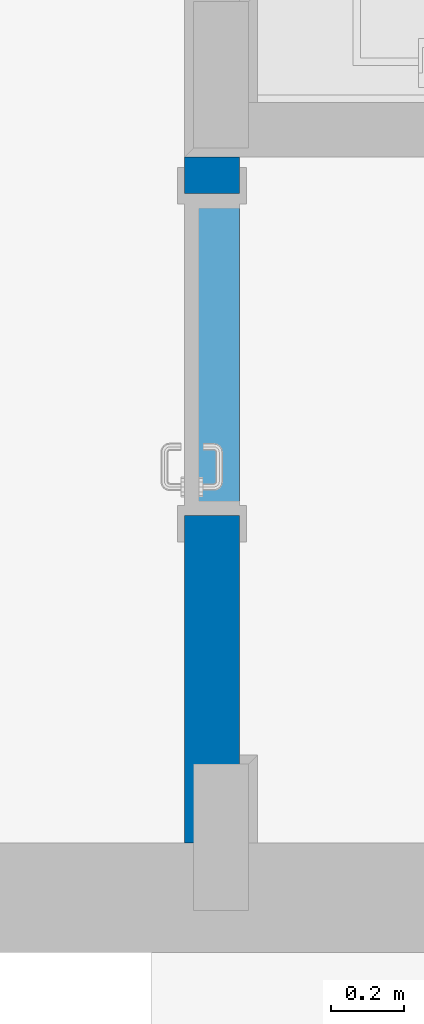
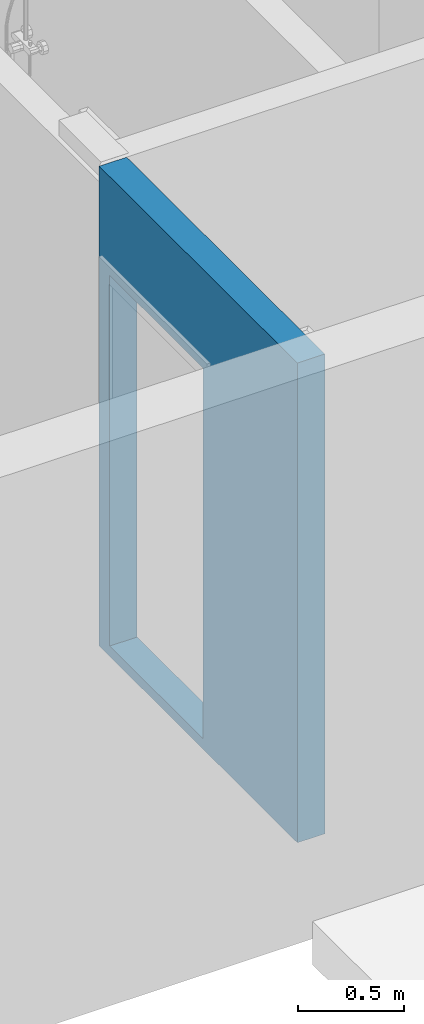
# One storey, part 3 of 24: 1 wall, 1 opening.
"""IFC2X3 building model written with IfcOpenShell, lengths in millimetres."""

from ifc_helpers import new_model, entity, si_unit, converted_unit, money_unit, direction, frame, origin_with_axes, origin_2d_with_axis, place, context, subcontext, project, spatial, polyline, rectangle, outline, extrude, material, layer, layer_set, layer_usage, type_object, element, save


model = new_model("IFC2X3")

# Units and contexts
model_context = context("Model", 3, precision=1e-05, world=origin_with_axes(), true_north=direction((0.0, 1.0)))
body_context = subcontext(model_context, "Body", "Model", "MODEL_VIEW")
ifc_project = project(units=[si_unit("LENGTHUNIT", "METRE", prefix="MILLI"), si_unit("AREAUNIT", "SQUARE_METRE"), si_unit("VOLUMEUNIT", "CUBIC_METRE"), converted_unit("PLANEANGLEUNIT", "DEGREE", entity("IfcPlaneAngleMeasure", 0.0174532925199), si_unit("PLANEANGLEUNIT", "RADIAN"), dimensions=[0, 0, 0, 0, 0, 0, 0]), si_unit("SOLIDANGLEUNIT", "STERADIAN"), money_unit("USD"), converted_unit("TIMEUNIT", "Year", entity("IfcTimeMeasure", 31556926.0), si_unit("TIMEUNIT", "SECOND"), dimensions=[0, 0, 0, 0, 0, 0, 0]), si_unit("MASSUNIT", "GRAM"), si_unit("THERMODYNAMICTEMPERATUREUNIT", "DEGREE_CELSIUS"), si_unit("LUMINOUSINTENSITYUNIT", "LUMEN")], contexts=[model_context])

# Site, building, storey
site_placement = place(None, origin_with_axes())
site = spatial("IfcSite", under=ifc_project, at=site_placement, Name="Grove Residential", CompositionType="ELEMENT")
building_placement = place(site_placement, origin_with_axes())
building = spatial("IfcBuilding", under=site, at=building_placement, Name="Building", CompositionType="ELEMENT")
storey_placement = place(building_placement, frame((0.0, 0.0, 3740.0), z_axis=(0.0, 0.0, 1.0), x_axis=(1.0, 0.0, 0.0)))
storey = spatial("IfcBuildingStorey", under=building, at=storey_placement, Name="First Floor", CompositionType="ELEMENT", Elevation=3740.0)

# Wall, opening
ifc_material_1 = material(Name="Gypsum Plasterboard")
ifc_layer_1 = layer(ifc_material_1, 12.5, ventilated="UNKNOWN")
ifc_layer_2 = layer(ifc_material_1, 12.5, ventilated="UNKNOWN")
ifc_material_2 = material(Name="Air Space - Frame")
ifc_layer_3 = layer(ifc_material_2, 50.0, ventilated="UNKNOWN")
ifc_material_3 = material(Name="Insulation - Mineral Soft")
ifc_layer_4 = layer(ifc_material_3, 50.0, ventilated="UNKNOWN")
ifc_layer_5 = layer(ifc_material_1, 12.5, ventilated="UNKNOWN")
ifc_layer_6 = layer(ifc_material_1, 12.5, ventilated="UNKNOWN")
ifc_layer_set = layer_set([ifc_layer_1, ifc_layer_2, ifc_layer_3, ifc_layer_4, ifc_layer_5, ifc_layer_6], Name="IWF-001")
ifc_layer_usage = layer_usage(ifc_layer_set, "AXIS2", "NEGATIVE", 150.0)
wall_type = type_object("IfcWallType", Name="IWF-001 150", PredefinedType="NOTDEFINED")
wall_placement = place(storey_placement, frame((-4910.0, 3524.99996722, -60.0), z_axis=(0.0, 0.0, 1.0), x_axis=(0.0, -1.0, 0.0)))
wall = element("IfcWallStandardCase", 1, at=wall_placement, inside=storey, type_object=wall_type, material=ifc_layer_usage, Name="SW - 001", context=body_context, shape_type="SweptSolid", body=[
    extrude(outline(polyline([(0.0, 0.0), (1875.00004413, 0.0), (1875.00004413, 150.0), (0.0, 150.0), (0.0, 0.0)])), origin_with_axes(), (0.0, 0.0, 1.0), 2770.0),
])
opening_placement = place(wall_placement, frame((540.0, 0.0, 60.0), z_axis=(0.0, 0.0, 1.0), x_axis=(1.0, 0.0, 0.0)))
element("IfcOpeningElement", 2, at=opening_placement, cuts=wall, Name="D.01", context=body_context, shape_type="SweptSolid", body=[
    extrude(rectangle(XDim=880.0, YDim=2140.0, at=origin_2d_with_axis()), frame((0.0, -150.0, 1070.0), z_axis=(0.0, 1.0, 0.0), x_axis=(-1.0, 0.0, 0.0)), (0.0, 0.0, 1.0), 450.0),
    extrude(rectangle(XDim=1024.0, YDim=2212.0, at=origin_2d_with_axis()), frame((0.0, 0.0, 1106.0), z_axis=(0.0, 1.0, 0.0), x_axis=(-1.0, 0.0, 0.0)), (0.0, 0.0, -1.0), 150.0),
    extrude(rectangle(XDim=1024.0, YDim=2212.0, at=origin_2d_with_axis()), frame((0.0, 150.0, 1106.0), z_axis=(0.0, -1.0, 0.0), x_axis=(-1.0, 0.0, 0.0)), (0.0, 0.0, -1.0), 150.0),
])

save(model, "model.ifc")
